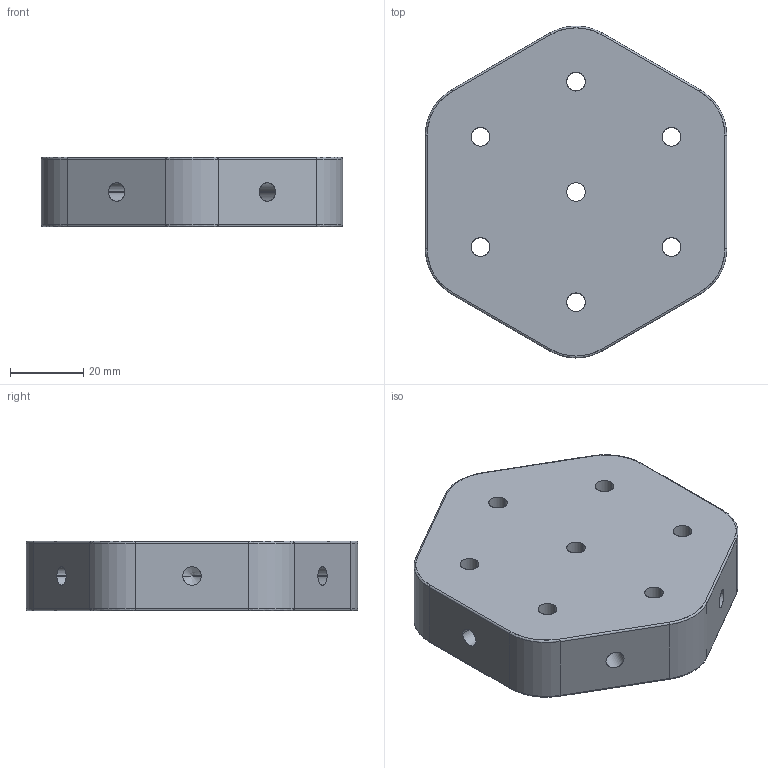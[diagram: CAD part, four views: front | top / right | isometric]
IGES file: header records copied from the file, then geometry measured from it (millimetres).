
Start section: SolidWorks IGES file using analytic representation for surfaces
Global section: file name: \\SERVER3\Design\_New Design Drive Folder List\_Design Vault\AAI\Modular Round Tube Connectors\Solidworks Models\STP Files\12202013\1.000 Inch Modular Connectors\DRP-002-0507-00.IGS; native system: SolidWorks 2013; preprocessor: SolidWorks 2013; author: tbraun; date: 131220.112234; units: inch
Bounding box: 82.5 x 90.84 x 19.05 mm (x, y, z)
Surface area: 20510.3 mm2 (no closed solid volume)
Topology: 0 solids, 0 shells, 76 faces, 1044 edges, 1032 vertices
Faces by surface type: revolution 56, bspline 20
